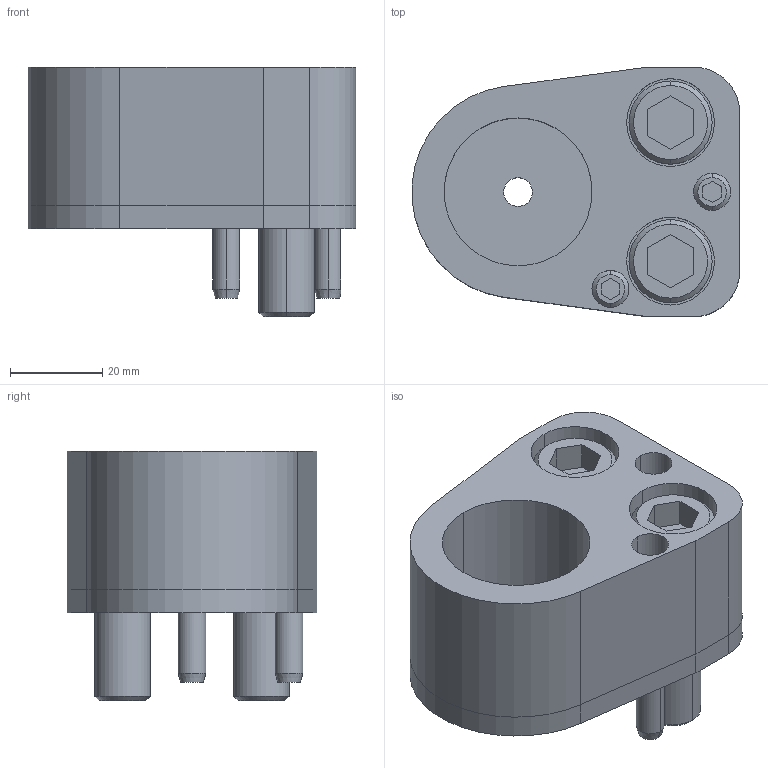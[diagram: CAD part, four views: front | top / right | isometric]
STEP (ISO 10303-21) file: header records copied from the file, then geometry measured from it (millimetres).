
FILE_DESCRIPTION(/* description */ (''),/* implementation_level */ '2;1');
FILE_NAME(/* name */ '3d_cp-ap32_02855_r00.stp',/* time_stamp */ '2011-01-10T14:16:29+09:00',/* author */ ('MISUMI'),/* organization */ (''),/* preprocessor_version */ 'ST-DEVELOPER v11',/* originating_system */ 'UGS - NX 5.0',/* authorisation */ '');
FILE_SCHEMA (('CONFIG_CONTROL_DESIGN'));
Length unit declared in the file: millimetre
Products named in the file (1): 3d_cp-ap32_02855_r00
Bounding box: 70.92 x 54 x 54 mm (x, y, z)
Volume: 89097.7 mm3; surface area: 33405.7 mm2
Topology: 8 solids, 8 shells, 152 faces, 340 edges, 218 vertices
Faces by surface type: plane 66, cylinder 60, cone 26
Entity records: 4397 total; most frequent: DIRECTION 788, CARTESIAN_POINT 762, ORIENTED_EDGE 680, EDGE_CURVE 340, AXIS2_PLACEMENT_3D 299, VERTEX_POINT 218, LINE 190, VECTOR 190
